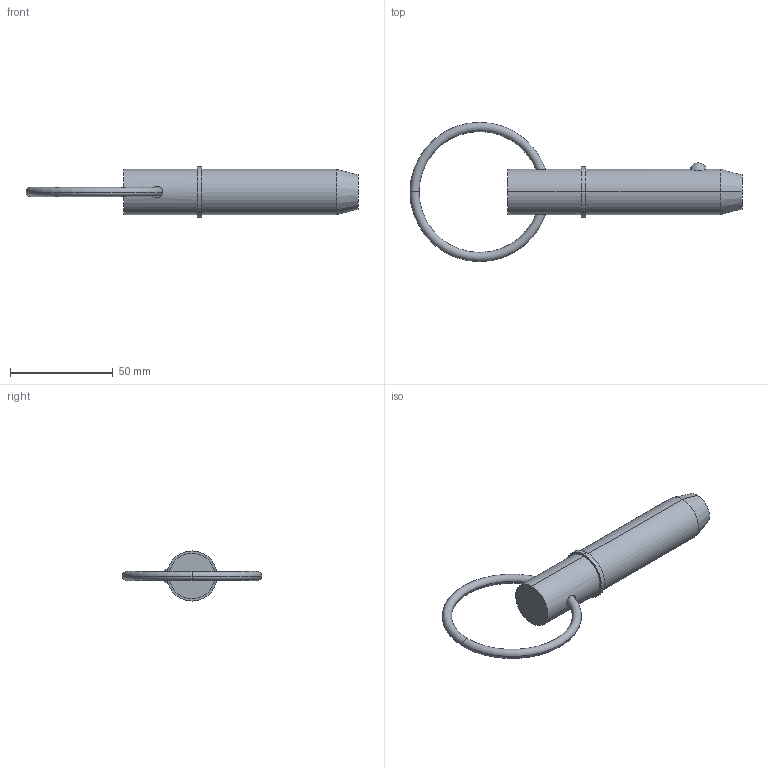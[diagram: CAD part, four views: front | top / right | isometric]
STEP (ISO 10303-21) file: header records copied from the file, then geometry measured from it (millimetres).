
FILE_DESCRIPTION (( 'STEP AP203' ), '1' );
FILE_NAME ('33014.W8820.step', '2024-11-04T08:37:10', ( '' ), ( '' ), 'SwSTEP 2.0', 'SolidWorks 2019', '' );
FILE_SCHEMA (( 'CONFIG_CONTROL_DESIGN' ));
Length unit declared in the file: millimetre
Products named in the file (3): 33014.W8820; Part2_33014.W8820; Part1_33014.W8820
Assembly tree (2 placements, depth 2):
  33014.W8820
    Part1_33014.W8820
    Part2_33014.W8820
Bounding box: 161.91 x 67.95 x 24.45 mm (x, y, z)
Volume: 46275.5 mm3; surface area: 11860.6 mm2
Topology: 2 solids, 2 shells, 22 faces, 43 edges, 26 vertices
Faces by surface type: torus 8, cylinder 6, plane 4, sphere 2, cone 2
Entity records: 1065 total; most frequent: CARTESIAN_POINT 288, DIRECTION 120, ORIENTED_EDGE 86, AXIS2_PLACEMENT_3D 56, EDGE_CURVE 43, CIRCLE 29, EDGE_LOOP 27, PERSON_AND_ORGANIZATION 26
